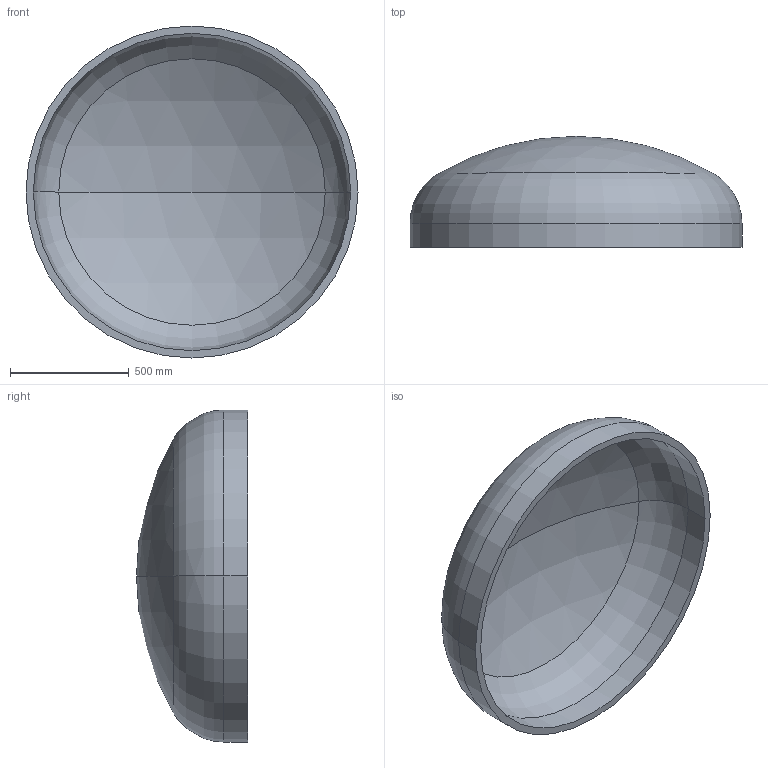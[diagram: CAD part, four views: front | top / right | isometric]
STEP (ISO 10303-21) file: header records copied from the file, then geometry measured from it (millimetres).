
FILE_DESCRIPTION (( 'STEP AP203' ), '1' );
FILE_NAME ('DIN 28013 Korbbogenform_-_Boden DIN 28013 - 1400 x 100 - I - s=31.step', '2016-07-01T10:14:27', ( '' ), ( '' ), 'SwSTEP 2.0', 'SolidWorks 2013', '' );
FILE_SCHEMA (( 'CONFIG_CONTROL_DESIGN' ));
Length unit declared in the file: millimetre
Products named in the file (1): DIN 28013 Korbbogenform_-_Boden DIN 28013 - 1400 x 100 - I - s=31
Bounding box: 1400 x 468.12 x 1400 mm (x, y, z)
Volume: 77493675.7 mm3; surface area: 5134929.2 mm2
Topology: 1 solids, 1 shells, 13 faces, 24 edges, 14 vertices
Faces by surface type: torus 4, cylinder 4, sphere 4, plane 1
Entity records: 407 total; most frequent: DIRECTION 72, CARTESIAN_POINT 52, ORIENTED_EDGE 48, AXIS2_PLACEMENT_3D 34, EDGE_CURVE 24, CIRCLE 20, EDGE_LOOP 14, VERTEX_POINT 14
